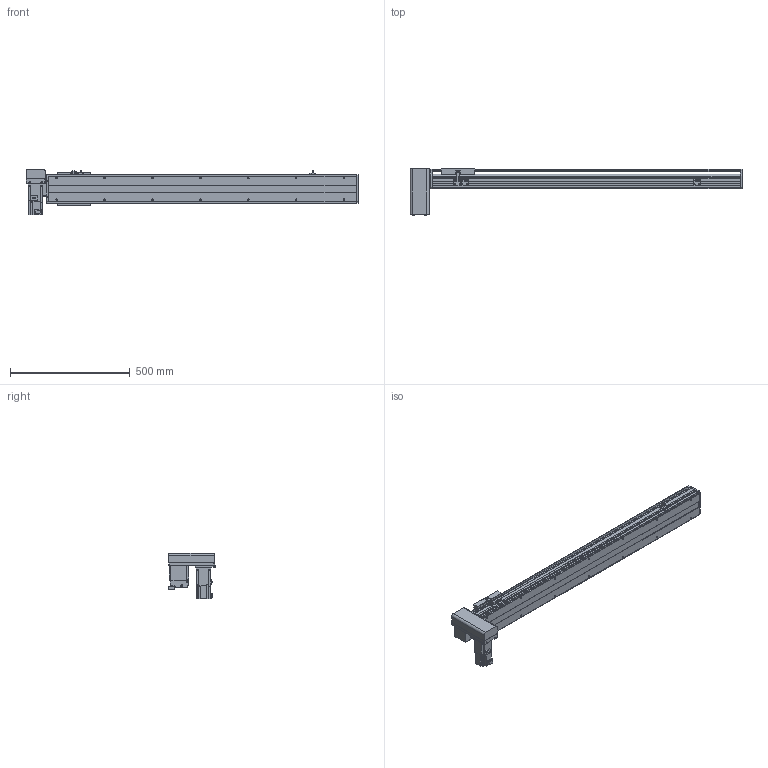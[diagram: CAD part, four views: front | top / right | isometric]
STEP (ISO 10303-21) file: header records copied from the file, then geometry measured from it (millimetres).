
FILE_DESCRIPTION( ( 'STEP AP214' ), '1' );
FILE_NAME( 'x:/temp/worker_27/temp/exporttempdir_6708_182_Ot02f/format_0/PBS120-P40-S1000-RD-T40-C1-N(0).stp', '2022-06-06T00:41:26', ( 'License CC BY-ND 4.0' ), ( 'CADENAS' ), ' ', 'PARTsolutions', ' ' );
FILE_SCHEMA( ( 'AUTOMOTIVE_DESIGN { 1 0 10303 214 1 1 1 1 }' ) );
Length unit declared in the file: millimetre
Products named in the file (7): PBS120-P40-S1000-RD-T40-C1-N(0); _PBS120-S1000()_body; _PBS120T-RD_motors; _T40-p1; _PBS120_sliser; _PBS120_plant; _PBS120_sensor
Assembly tree (8 placements, depth 2):
  PBS120-P40-S1000-RD-T40-C1-N(0)
    _PBS120-S1000()_body
    _PBS120T-RD_motors
    _T40-p1
    _PBS120_sliser
    _PBS120_plant
    _PBS120_sensor  x3
Bounding box: 1386 x 196 x 189.7 mm (x, y, z)
Volume: 5961401.7 mm3; surface area: 1163655.3 mm2
Topology: 8 solids, 8 shells, 822 faces, 2146 edges, 1381 vertices
Faces by surface type: plane 547, cylinder 227, cone 46, torus 2
Full cylindrical faces by diameter (mm): 2.459 x6, 3.242 x4, 4 x2, 4.134 x4, 4.5 x10, 4.917 x18, 5.5 x11, 6 x2, 6.6 x1, 7 x2, 8.5 x4, 9 x4, 12 x1, 14 x1, 30 x2, 40 x1, 50 x2
Entity records: 27156 total; most frequent: DIRECTION 3716, CARTESIAN_POINT 3659, ORIENTED_EDGE 3490, EDGE_CURVE 1745, AXIS2_PLACEMENT_3D 1244, LINE 1228, VECTOR 1228, VERTEX_POINT 1187
